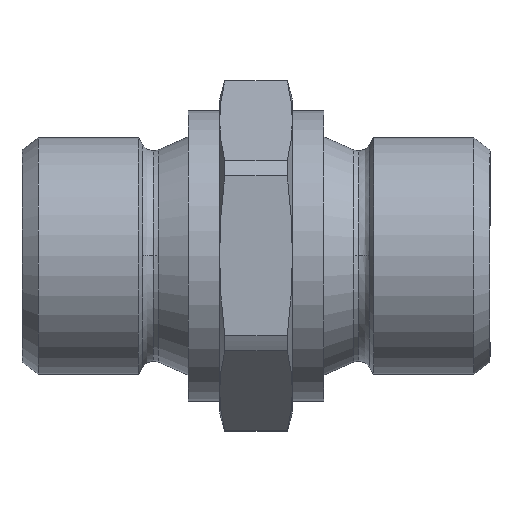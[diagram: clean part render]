
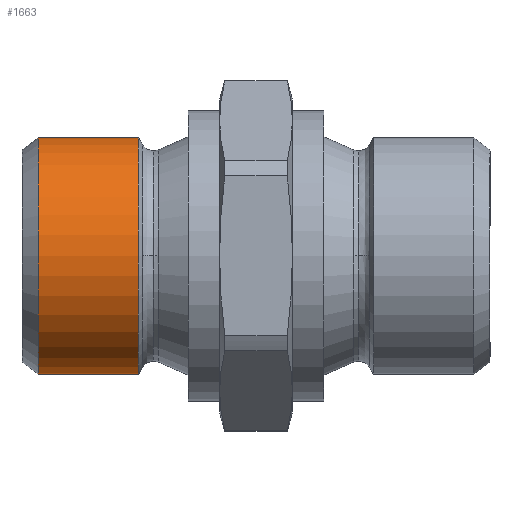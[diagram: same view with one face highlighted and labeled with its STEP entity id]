
A CAD part, top view. The second image highlights one B-rep face of the part: STEP entity #1663.
In plain terms, the highlighted cylindrical face has radius 11.385 mm (diameter 22.77 mm), a partial arc.
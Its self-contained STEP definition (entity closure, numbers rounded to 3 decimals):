
#997=CARTESIAN_POINT('',(0.,-11.385,20.927));
#998=VERTEX_POINT('',#997);
#999=CARTESIAN_POINT('',(0.,-11.385,11.306));
#1000=VERTEX_POINT('',#999);
#1001=CARTESIAN_POINT('',(0.,-11.385,20.927));
#1002=DIRECTION('',(0.0,0.0,-1.0));
#1003=VECTOR('',#1002,9.622);
#1004=LINE('',#1001,#1003);
#1005=EDGE_CURVE('',#998,#1000,#1004,.T.);
#1007=CARTESIAN_POINT('',(0.,11.385,20.927));
#1008=VERTEX_POINT('',#1007);
#1016=CARTESIAN_POINT('',(0.,11.385,11.306));
#1017=VERTEX_POINT('',#1016);
#1018=CARTESIAN_POINT('',(0.,11.385,11.306));
#1019=DIRECTION('',(0.0,0.0,1.0));
#1020=VECTOR('',#1019,9.622);
#1021=LINE('',#1018,#1020);
#1022=EDGE_CURVE('',#1017,#1008,#1021,.T.);
#1461=CARTESIAN_POINT('',(0.,0.,11.306));
#1462=DIRECTION('',(0.0,0.0,-1.0));
#1463=DIRECTION('',(0.0,-1.0,0.0));
#1464=AXIS2_PLACEMENT_3D('',#1461,#1462,#1463);
#1465=CIRCLE('',#1464,11.385);
#1466=EDGE_CURVE('',#1017,#1000,#1465,.T.);
#1640=CARTESIAN_POINT('',(0.,0.,20.927));
#1641=DIRECTION('',(0.0,0.0,-1.0));
#1642=DIRECTION('',(0.0,-1.0,0.0));
#1643=AXIS2_PLACEMENT_3D('',#1640,#1641,#1642);
#1644=CIRCLE('',#1643,11.385);
#1645=EDGE_CURVE('',#1008,#998,#1644,.T.);
#1652=CARTESIAN_POINT('',(0.,0.,16.117));
#1653=DIRECTION('',(0.,0.,-1.0));
#1654=DIRECTION('',(0.0,-1.0,0.0));
#1655=AXIS2_PLACEMENT_3D('',#1652,#1653,#1654);
#1656=CYLINDRICAL_SURFACE('',#1655,11.385);
#1657=ORIENTED_EDGE('',*,*,#1005,.T.);
#1658=ORIENTED_EDGE('',*,*,#1466,.F.);
#1659=ORIENTED_EDGE('',*,*,#1022,.T.);
#1660=ORIENTED_EDGE('',*,*,#1645,.T.);
#1661=EDGE_LOOP('',(#1657,#1658,#1659,#1660));
#1662=FACE_OUTER_BOUND('',#1661,.T.);
#1663=ADVANCED_FACE('',(#1662),#1656,.T.);
